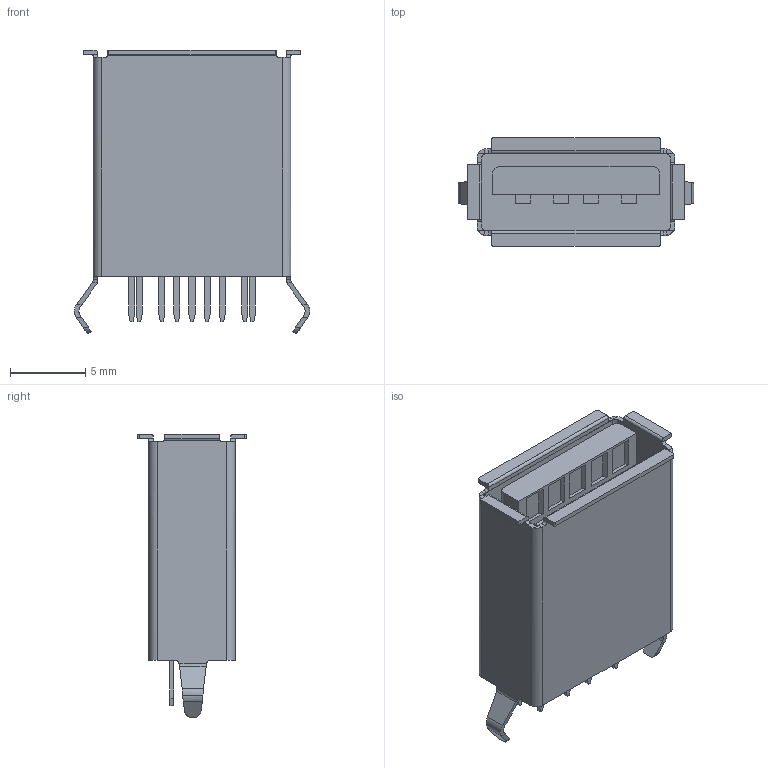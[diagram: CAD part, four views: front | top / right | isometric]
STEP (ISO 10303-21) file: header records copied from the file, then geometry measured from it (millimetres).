
FILE_DESCRIPTION (( 'STEP AP214' ), '1' );
FILE_NAME ('usb3_ausb3_a-top.step', '2025-12-23T15:58:38', ( '' ), ( '' ), 'SwSTEP 2.0', 'SolidWorks 2026', '' );
FILE_SCHEMA (( 'AUTOMOTIVE_DESIGN' ));
Length unit declared in the file: inch
Products named in the file (1): usb3_ausb3_a-top
Bounding box: 15.6 x 7.2 x 18.8 mm (x, y, z)
Volume: 586.8 mm3; surface area: 1636.5 mm2
Topology: 1 solids, 1 shells, 264 faces, 729 edges, 482 vertices
Faces by surface type: plane 210, cylinder 54
Entity records: 8476 total; most frequent: CARTESIAN_POINT 1780, ORIENTED_EDGE 1458, DIRECTION 1285, EDGE_CURVE 729, LINE 579, VECTOR 579, VERTEX_POINT 482, AXIS2_PLACEMENT_3D 353
